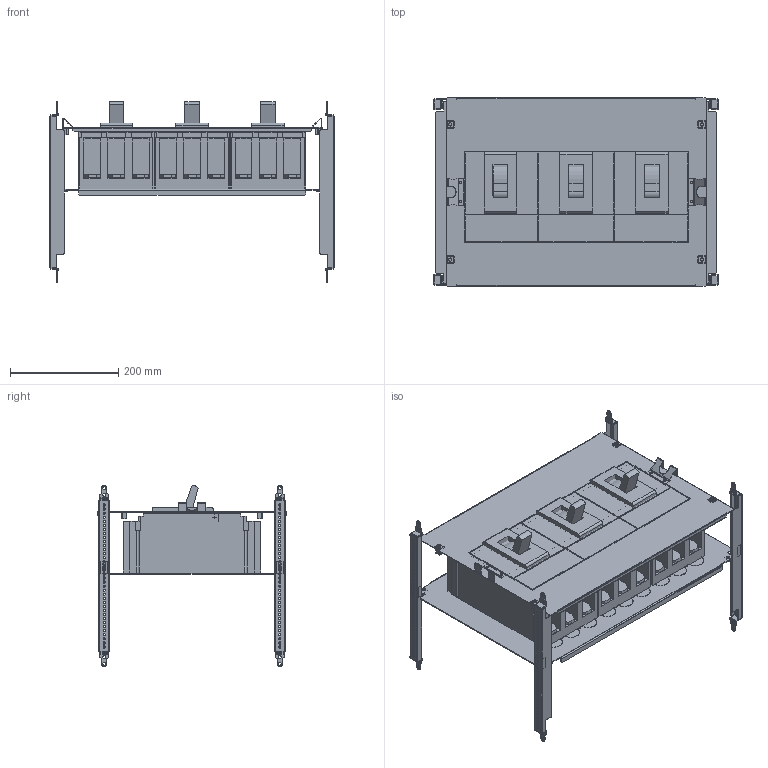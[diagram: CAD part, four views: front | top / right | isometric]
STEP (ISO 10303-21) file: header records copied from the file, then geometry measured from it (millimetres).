
FILE_DESCRIPTION(('CAx-IF Rec.Pracs.---Model Styling and Organization---1.2---2011-12-15','CAx-IF Rec.Pracs.---Geometric and Assembly Validation Properties---4.1---2014-06-16','CAx-IF Rec.Pracs.---PMI Polyline Presentation---2.0---2013-05-24'),'2;1');
FILE_NAME('R5PKIB7V63016 (F).stp','2021-07-29T03:14:56+03:00',(''),(''),'STEP Interface 4.4 by CT CoreTechnologie','3D_Evolution4.4 by CT CoreTechnologie','');
FILE_SCHEMA(('AUTOMOTIVE_DESIGN { 1 0 10303 214 1 1 1 1 }'));
Length unit declared in the file: millimetre
Products named in the file (1): R5PKIB7V63016 (F)
Bounding box: 526 x 348 x 335 mm (x, y, z)
Surface area: 1566844.9 mm2 (no closed solid volume)
Topology: 0 solids, 73 shells, 2445 faces, 6970 edges, 4666 vertices
Faces by surface type: plane 1598, cylinder 699, bspline 148
Entity records: 81337 total; most frequent: CARTESIAN_POINT 15824, ORIENTED_EDGE 13800, DIRECTION 13129, EDGE_CURVE 6918, VECTOR 5243, LINE 5243, VERTEX_POINT 4672, AXIS2_PLACEMENT_3D 3943
